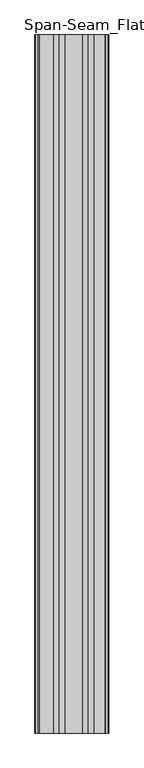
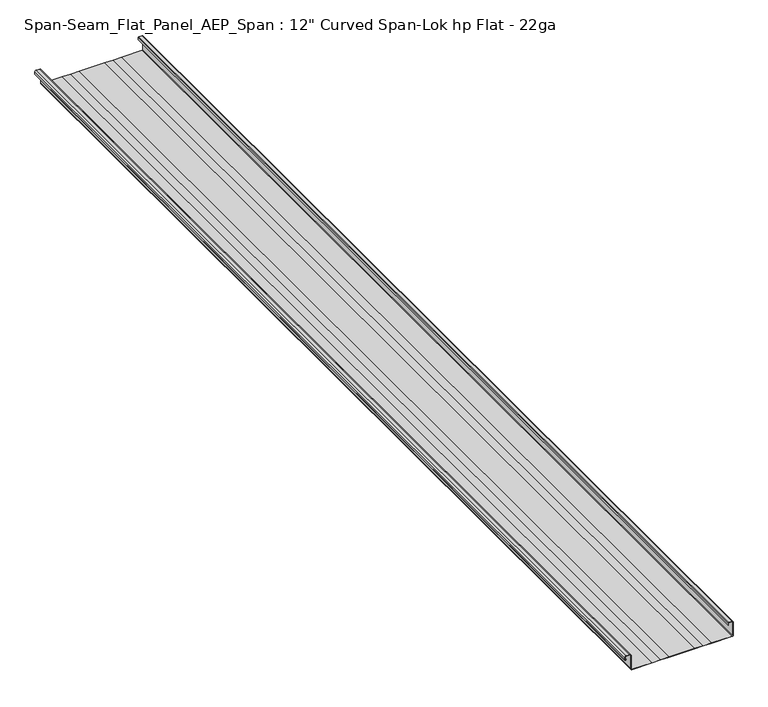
"""IFC4 building model written with IfcOpenShell, lengths in millimetres: proxy geometry."""

import ifcopenshell
import ifcopenshell.guid

model = None  # the IFC model being written
_history = None  # IfcOwnerHistory: only IFC2X3 demands one
_inside = {}  # id of a spatial element -> (the spatial element, [elements in it])
_under = {}  # id of a project, library or spatial element -> (it, [spatial elements below it])
_declared = {}  # id of a project -> (the project, [libraries it declares])
_typed = {}  # id of a type object -> (the type object, [elements of that type])
_made_of = {}  # id of a material, layer set ... -> (it, [elements and type objects made of it])


def new_model(schema):
    """Start an empty IFC model of exactly this schema.

    Asked for "IFC4X3", IfcOpenShell would pick the latest addendum, in which some entities
    have other attributes; the version numbers below select the first issue.
    IFC2X3 requires an IfcOwnerHistory on every rooted entity: one is made here for all.
    """
    global model, _history
    if schema == "IFC4X3":
        model = ifcopenshell.file(schema_version=(4, 3, 0, 0))
    else:
        model = ifcopenshell.file(schema=schema)
    _inside.clear()
    _under.clear()
    _declared.clear()
    _typed.clear()
    _made_of.clear()
    _history = None
    if model.schema == "IFC2X3":
        org = make("IfcOrganization", Name="unknown")
        user = make(
            "IfcPersonAndOrganization",
            ThePerson=make("IfcPerson", FamilyName="unknown"),
            TheOrganization=org,
        )
        app = make(
            "IfcApplication",
            ApplicationDeveloper=org,
            Version="unknown",
            ApplicationFullName="unknown",
            ApplicationIdentifier="unknown",
        )
        _history = make(
            "IfcOwnerHistory",
            OwningUser=user,
            OwningApplication=app,
            ChangeAction="ADDED",
            CreationDate=0,
        )
    return model


def make(cls, **values):
    """One entity of the class cls with the attributes given. An attribute that is None is left unset."""
    return model.create_entity(
        cls, **{name: value for name, value in values.items() if value is not None}
    )


def rooted(cls, **values):
    """An entity with a GlobalId (a new one), such as an element, a storey or a relation."""
    return make(cls, GlobalId=ifcopenshell.guid.new(), OwnerHistory=_history, **values)


def si_unit(unit_type, name, prefix=None):
    """IfcSIUnit, for example si_unit("LENGTHUNIT", "METRE", prefix="MILLI")."""
    return make("IfcSIUnit", UnitType=unit_type, Prefix=prefix, Name=name)


def assignment(units):
    """IfcUnitAssignment: the units of a project."""
    return None if units is None else make("IfcUnitAssignment", Units=units)


def point(xyz):
    """IfcCartesianPoint."""
    return None if xyz is None else make("IfcCartesianPoint", Coordinates=xyz)


def direction(xyz):
    """IfcDirection."""
    return None if xyz is None else make("IfcDirection", DirectionRatios=xyz)


def frame(location, z_axis=None, x_axis=None):
    """IfcAxis2Placement3D, a coordinate frame: its origin and axes. An axis left out is left unset."""
    return make(
        "IfcAxis2Placement3D",
        Location=point(location),
        Axis=direction(z_axis),
        RefDirection=direction(x_axis),
    )


def frame_2d(location, x_axis=None):
    """IfcAxis2Placement2D, a coordinate frame in the plane: its origin and x axis."""
    return make(
        "IfcAxis2Placement2D", Location=point(location), RefDirection=direction(x_axis)
    )


def origin():
    """The frame at (0, 0, 0) with its axes left unset."""
    return frame((0.0, 0.0, 0.0))


def place(relative_to, where):
    """IfcLocalPlacement: puts the frame where relative to a parent placement (None: the world)."""
    return make(
        "IfcLocalPlacement", PlacementRelTo=relative_to, RelativePlacement=where
    )


def context(
    kind, dimensions, precision=None, world=None, true_north=None, identifier=None
):
    """IfcGeometricRepresentationContext, for example the 3D "Model" context."""
    return make(
        "IfcGeometricRepresentationContext",
        ContextIdentifier=identifier,
        ContextType=kind,
        CoordinateSpaceDimension=dimensions,
        Precision=precision,
        WorldCoordinateSystem=world,
        TrueNorth=true_north,
    )


def project(units=None, contexts=None):
    """IfcProject with its units and contexts."""
    return rooted(
        "IfcProject",
        Name="project",
        RepresentationContexts=contexts,
        UnitsInContext=assignment(units),
    )


def spatial(cls, under=None, at=None, **own):
    """A site, building, storey or space (cls), placed at a placement, below another one or the project."""
    s = rooted(cls, ObjectPlacement=at, **own)
    if under is not None:
        _under.setdefault(under.id(), (under, []))[1].append(s)
    return s


def polyline(points):
    """IfcPolyline through the points."""
    return make("IfcPolyline", Points=[point(p) for p in points])


def circle_curve(where, radius):
    """IfcCircle in the frame where."""
    return make("IfcCircle", Position=where, Radius=radius)


def trimmed(basis, trim1, trim2, sense, master):
    """IfcTrimmedCurve: the piece of a basis curve between two trims."""
    return make(
        "IfcTrimmedCurve",
        BasisCurve=basis,
        Trim1=trim1,
        Trim2=trim2,
        SenseAgreement=sense,
        MasterRepresentation=master,
    )


def segment(curve, same_sense, transition):
    """IfcCompositeCurveSegment."""
    return make(
        "IfcCompositeCurveSegment",
        Transition=transition,
        SameSense=same_sense,
        ParentCurve=curve,
    )


def composite_curve(segments, self_intersect=None):
    """IfcCompositeCurve: segments joined end to end."""
    return make("IfcCompositeCurve", Segments=segments, SelfIntersect=self_intersect)


def outline(outer, holes=None, kind="AREA"):
    """IfcArbitraryClosedProfileDef: a profile drawn as a closed curve; with holes, ...WithVoids."""
    if holes is None:
        return make("IfcArbitraryClosedProfileDef", ProfileType=kind, OuterCurve=outer)
    return make(
        "IfcArbitraryProfileDefWithVoids",
        ProfileType=kind,
        OuterCurve=outer,
        InnerCurves=holes,
    )


def extrude(swept, where, along, depth):
    """IfcExtrudedAreaSolid: the profile swept, set in the frame where, extruded along a direction by depth."""
    return make(
        "IfcExtrudedAreaSolid",
        SweptArea=swept,
        Position=where,
        ExtrudedDirection=direction(along),
        Depth=depth,
    )


def shape(context_of_items, identifier, shape_type, items):
    """IfcShapeRepresentation: the items that make up one representation, for example the "Body"."""
    return make(
        "IfcShapeRepresentation",
        ContextOfItems=context_of_items,
        RepresentationIdentifier=identifier,
        RepresentationType=shape_type,
        Items=items,
    )


def source(mapping_origin, context_of_items, identifier, shape_type, items):
    """IfcRepresentationMap: a shape defined once, which mapped items show again and again."""
    return make(
        "IfcRepresentationMap",
        MappingOrigin=mapping_origin,
        MappedRepresentation=shape(context_of_items, identifier, shape_type, items),
    )


def transform(
    local_origin,
    x_axis=None,
    y_axis=None,
    z_axis=None,
    scale=None,
    scale2=None,
    scale3=None,
    uniform=True,
):
    """IfcCartesianTransformationOperator3D, or its non-uniform kind. x_axis, y_axis, z_axis: its Axis1, 2, 3."""
    if uniform:
        return make(
            "IfcCartesianTransformationOperator3D",
            Axis1=direction(x_axis),
            Axis2=direction(y_axis),
            LocalOrigin=point(local_origin),
            Scale=scale,
            Axis3=direction(z_axis),
        )
    return make(
        "IfcCartesianTransformationOperator3DnonUniform",
        Axis1=direction(x_axis),
        Axis2=direction(y_axis),
        LocalOrigin=point(local_origin),
        Scale=scale,
        Axis3=direction(z_axis),
        Scale2=scale2,
        Scale3=scale3,
    )


def mapped(mapping_source, mapping_target):
    """IfcMappedItem: shows the shape of a source again, moved by a transform."""
    return make(
        "IfcMappedItem", MappingSource=mapping_source, MappingTarget=mapping_target
    )


def made_of(thing, what):
    """Note that an element or type object is made of a material, layer set ...; save() writes the relation."""
    if what is not None:
        _made_of.setdefault(what.id(), (what, []))[1].append(thing)
    return thing


def element(
    cls,
    number,
    at=None,
    inside=None,
    cuts=None,
    type_object=None,
    material=None,
    context=None,
    identifier="Body",
    shape_type=None,
    held_by="IfcProductDefinitionShape",
    body=None,
    shapes=None,
    **own,
):
    """One element of the class cls, such as IfcWall. Its Tag is "e" and its number.

    at: its placement. inside: the storey or other place that contains it. cuts: it is an
    opening in that element (IfcRelVoidsElement). A single representation is given by context,
    identifier, shape_type and body (its items); several are given by shapes. held_by: the class
    of the entity that holds the representations. save() writes the other relations.
    """
    e = rooted(cls, Tag="e%d" % number, ObjectPlacement=at, **own)
    if body is not None:
        shapes = [shape(context, identifier, shape_type, body)]
    if shapes is not None:
        e.Representation = make(held_by, Representations=shapes)
    if inside is not None:
        _inside.setdefault(inside.id(), (inside, []))[1].append(e)
    if cuts is not None:
        rooted(
            "IfcRelVoidsElement", RelatingBuildingElement=cuts, RelatedOpeningElement=e
        )
    if type_object is not None:
        _typed.setdefault(type_object.id(), (type_object, []))[1].append(e)
    return made_of(e, material)


def aggregate(whole, parts):
    """IfcRelAggregates: a whole, such as a stair, and the parts it consists of."""
    return rooted("IfcRelAggregates", RelatingObject=whole, RelatedObjects=parts)


def save(model, path):
    """Write the relations noted so far, then the file.

    IfcRelAggregates (storeys below a building ...), IfcRelContainedInSpatialStructure (elements
    in a storey), IfcRelDefinesByType, IfcRelAssociatesMaterial and IfcRelDeclares: one each for
    every whole, place, type object, material and project.
    """
    for whole, parts in _under.values():
        aggregate(whole, parts)
    for where, things in _inside.values():
        rooted(
            "IfcRelContainedInSpatialStructure",
            RelatedElements=things,
            RelatingStructure=where,
        )
    for kind, things in _typed.values():
        rooted("IfcRelDefinesByType", RelatedObjects=things, RelatingType=kind)
    for what, things in _made_of.values():
        rooted("IfcRelAssociatesMaterial", RelatedObjects=things, RelatingMaterial=what)
    for by, libraries in _declared.values():
        rooted("IfcRelDeclares", RelatingContext=by, RelatedDefinitions=libraries)
    model.write(path)


def proxy_3ed22cc2(model_context):
    return source(origin(), model_context, "Body", "SweptSolid", [
        extrude(outline(composite_curve([segment(polyline([(44.3801219, 137.283706), (38.8842004, 137.283706), (38.8842004, 138.0641786), (44.3801219, 138.030466)]), True, "CONTINUOUS"), segment(trimmed(circle_curve(frame_2d((44.3801219, 139.8935543)), 1.8630883), [point((44.3801219, 138.030466))], [point((46.2432103, 139.8935543))], True, "CARTESIAN"), True, "CONTINUOUS"), segment(polyline([(46.2432103, 139.8935543), (46.2432103, 149.7900231)]), True, "CONTINUOUS"), segment(trimmed(circle_curve(frame_2d((44.3801219, 149.7900231)), 1.8630883), [point((46.2432103, 149.7900231))], [point((44.3801219, 151.6531114))], True, "CARTESIAN"), True, "CONTINUOUS"), segment(polyline([(44.3801219, 151.6531114), (2.6098483, 151.6531114)]), True, "CONTINUOUS"), segment(trimmed(circle_curve(frame_2d((2.6098483, 149.7900231)), 1.8630883), [point((2.6098483, 151.6531114))], [point((0.74676, 149.7900231))], True, "CARTESIAN"), True, "CONTINUOUS"), segment(polyline([(0.74676, 149.7900231), (0.74676, 88.8999116), (0.74676, 63.4998312), (0.74676, 38.0998473), (0.74676, -38.1001045), (0.74676, -63.5000884), (0.74676, -88.9001688), (0.74676, -149.7902802)]), True, "CONTINUOUS"), segment(trimmed(circle_curve(frame_2d((2.6098483, -149.7902802)), 1.8630883), [point((0.74676, -149.7902802))], [point((2.6098483, -151.6533686))], True, "CARTESIAN"), True, "CONTINUOUS"), segment(polyline([(2.6098483, -151.6533686), (44.8373216, -151.6533686)]), True, "CONTINUOUS"), segment(trimmed(circle_curve(frame_2d((44.8373216, -155.5814766)), 3.928108), [point((44.8373216, -151.6533686))], [point((48.7654296, -155.5814766))], False, "CARTESIAN"), True, "CONTINUOUS"), segment(polyline([(48.7654296, -155.5814766), (48.7654296, -166.3923447)]), True, "CONTINUOUS"), segment(trimmed(circle_curve(frame_2d((44.8373216, -166.3923447)), 3.928108), [point((48.7654296, -166.3923447))], [point((44.8373216, -170.3204527))], False, "CARTESIAN"), True, "CONTINUOUS"), segment(polyline([(44.8373216, -170.3204527), (37.8697862, -170.3204527)]), True, "CONTINUOUS"), segment(trimmed(circle_curve(frame_2d((37.8697862, -168.755754)), 1.5646987), [point((37.8697862, -170.3204527))], [point((36.7705435, -167.6422247))], False, "CARTESIAN"), True, "CONTINUOUS"), segment(polyline([(36.7705435, -167.6422247), (38.4174757, -166.0164226), (38.9662306, -166.5723095), (37.2951624, -168.1736619)]), True, "CONTINUOUS"), segment(trimmed(circle_curve(frame_2d((37.8697862, -168.755754)), 0.8179387), [point((37.2951624, -168.1736619))], [point((37.8697862, -169.5736927))], True, "CARTESIAN"), True, "CONTINUOUS"), segment(polyline([(37.8697862, -169.5736927), (44.8373216, -169.5736927)]), True, "CONTINUOUS"), segment(trimmed(circle_curve(frame_2d((44.8373216, -166.3923447)), 3.181348), [point((44.8373216, -169.5736927))], [point((48.0186696, -166.3923447))], True, "CARTESIAN"), True, "CONTINUOUS"), segment(polyline([(48.0186696, -166.3923447), (48.0186696, -155.5814766)]), True, "CONTINUOUS"), segment(trimmed(circle_curve(frame_2d((44.8373216, -155.5814766)), 3.181348), [point((48.0186696, -155.5814766))], [point((44.8373216, -152.4001286))], True, "CARTESIAN"), True, "CONTINUOUS"), segment(polyline([(44.8373216, -152.4001286), (2.6098483, -152.4001286)]), True, "CONTINUOUS"), segment(trimmed(circle_curve(frame_2d((2.6098483, -149.7902802)), 2.6098483), [point((2.6098483, -152.4001286))], [point((0.0, -149.7902802))], False, "CARTESIAN"), True, "CONTINUOUS"), segment(polyline([(0.0, -149.7902802), (0.0, -88.9001688), (0.0, -63.5000884), (0.0, -38.1001045), (0.0, 38.0998473), (0.0, 63.4998312), (0.0, 88.8999116), (0.0, 149.7900231)]), True, "CONTINUOUS"), segment(trimmed(circle_curve(frame_2d((2.6098483, 149.7900231)), 2.6098483), [point((0.0, 149.7900231))], [point((2.6098483, 152.3998714))], False, "CARTESIAN"), True, "CONTINUOUS"), segment(polyline([(2.6098483, 152.3998714), (44.3801219, 152.3998714)]), True, "CONTINUOUS"), segment(trimmed(circle_curve(frame_2d((44.3801219, 149.7900231)), 2.6098483), [point((44.3801219, 152.3998714))], [point((46.9899703, 149.7900231))], False, "CARTESIAN"), True, "CONTINUOUS"), segment(polyline([(46.9899703, 149.7900231), (46.9899703, 139.8935543)]), True, "CONTINUOUS"), segment(trimmed(circle_curve(frame_2d((44.3801219, 139.8935543)), 2.6098483), [point((46.9899703, 139.8935543))], [point((44.3801219, 137.283706))], False, "CARTESIAN"), True, "CONTINUOUS")], self_intersect=False)), frame((0.0, -3048.0, 0.0), z_axis=(0.0, 1.0, 0.0), x_axis=(0.0, 0.0, 1.0)), (0.0, 0.0, 1.0), 3048.0),
    ])


if __name__ == "__main__":
    model = new_model("IFC4")
    model_context = context("Model", 3, world=origin())
    ifc_project = project(units=[si_unit("LENGTHUNIT", "METRE", prefix="MILLI")], contexts=[model_context])
    site = spatial("IfcSite", under=ifc_project)
    building = spatial("IfcBuilding", under=site)
    placement = place(None, origin())
    proxy_shape = proxy_3ed22cc2(model_context)
    element("IfcBuildingElementProxy", 1, Name="Span-Seam_Flat_Panel_AEP_Span : 12\" Curved Span-Lok hp Flat - 22ga", ObjectType="Span-Seam_Flat_Panel_AEP_Span : 12\" Curved Span-Lok hp Flat - 22ga", at=placement, inside=building, context=model_context, shape_type="MappedRepresentation", body=[
        mapped(proxy_shape, transform((0.0, 0.0, 0.0), x_axis=(1.0, 0.0, 0.0), y_axis=(0.0, 1.0, 0.0), z_axis=(0.0, 0.0, 1.0))),
    ])
    save(model, "model.ifc")
